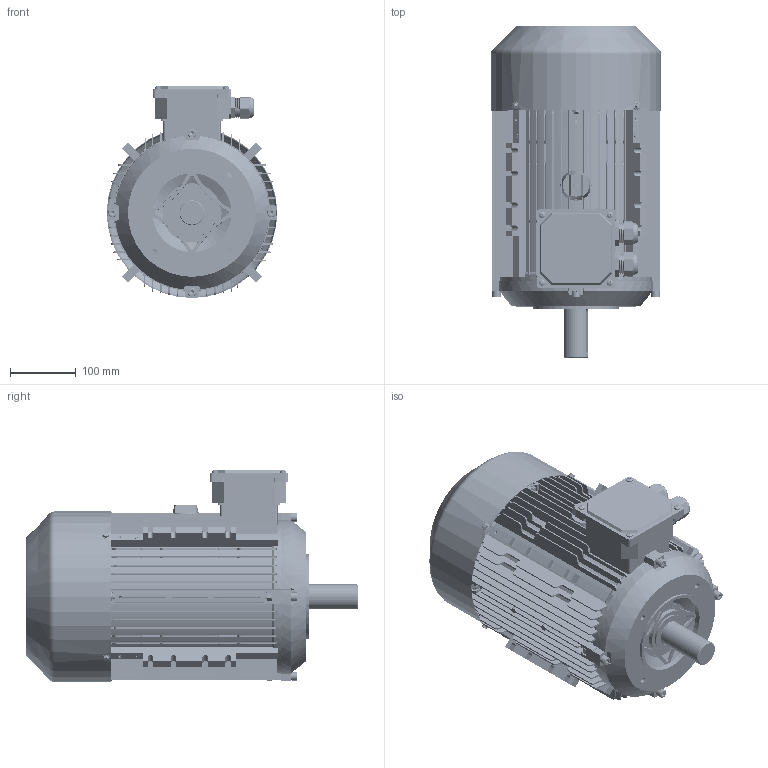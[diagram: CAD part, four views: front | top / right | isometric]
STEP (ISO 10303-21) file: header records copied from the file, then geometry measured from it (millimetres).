
FILE_DESCRIPTION (( 'STEP AP203' ), '1' );
FILE_NAME ('ME3-132M B14 3D.STEP', '2024-07-27T02:00:45', ( 'User' ), ( 'China' ), 'SwSTEP 2.0', 'SolidWorks 2018', '' );
FILE_SCHEMA (( 'CONFIG_CONTROL_DESIGN' ));
Length unit declared in the file: millimetre
Products named in the file (18): MS112-132諉盄碟裔; M24 蹟杶; cross recessed pan head screws gb_GB_CROSS_SCREWS_TYPE1 M5X6-6  H type-S; M24 蹟杶簸; 40X58X7蚐猾; spring lock washers--normal type gb_GB_FASTENER_WASHER_SW 8; ME3-132B14傷裔; hexagon socket head cap screws gb_GB_FASTENER_SCREWS_HSHCS M8X30-S; ME3-132M儂褲; ME3-132M B14  3D; hexagon socket head cap screws gb_GB_FASTENER_SCREWS_HSHCS M8X40-S; ME3-132 B3傷裔; hex nuts-style normal-grades ab gb_GB_HEXAGON_TYPE10 M8X1-S; deep groove ball bearings gb_Rolling bearings 6308 GB 276-94; ME3-132瑞欶; ME3-132M蛌粣; hex flange bolts-heavy grade b gb_GB_FASTENER_BOLT_HFBB M5X10-S; MS112-132 諉盄碟釱
Assembly tree (41 placements, depth 2):
  ME3-132M B14  3D
    ME3-132M儂褲
    ME3-132 B3傷裔
    deep groove ball bearings gb_Rolling bearings 6308 GB 276-94  x2
    ME3-132M蛌粣
    MS112-132 諉盄碟釱
    M24 蹟杶  x2
    M24 蹟杶簸  x2
    spring lock washers--normal type gb_GB_FASTENER_WASHER_SW 8  x4
    hexagon socket head cap screws gb_GB_FASTENER_SCREWS_HSHCS M8X30-S
    hexagon socket head cap screws gb_GB_FASTENER_SCREWS_HSHCS M8X40-S  x7
    hex nuts-style normal-grades ab gb_GB_HEXAGON_TYPE10 M8X1-S  x7
    ME3-132瑞欶
    hex flange bolts-heavy grade b gb_GB_FASTENER_BOLT_HFBB M5X10-S  x4
    MS112-132諉盄碟裔
    cross recessed pan head screws gb_GB_CROSS_SCREWS_TYPE1 M5X6-6  H type-S  x4
    40X58X7蚐猾
    ME3-132B14傷裔
Bounding box: 259.6 x 505.15 x 322.8 mm (x, y, z)
Volume: 3490473.2 mm3; surface area: 1787026.4 mm2
Topology: 43 solids, 44 shells, 6483 faces, 16314 edges, 9877 vertices
Faces by surface type: plane 2268, cone 2114, cylinder 1753, torus 234, sphere 68, bspline 46
Entity records: 135593 total; most frequent: CARTESIAN_POINT 34674, ORIENTED_EDGE 21252, DIRECTION 19640, EDGE_CURVE 10626, VERTEX_POINT 6797, LINE 6564, VECTOR 6564, AXIS2_PLACEMENT_3D 6538
